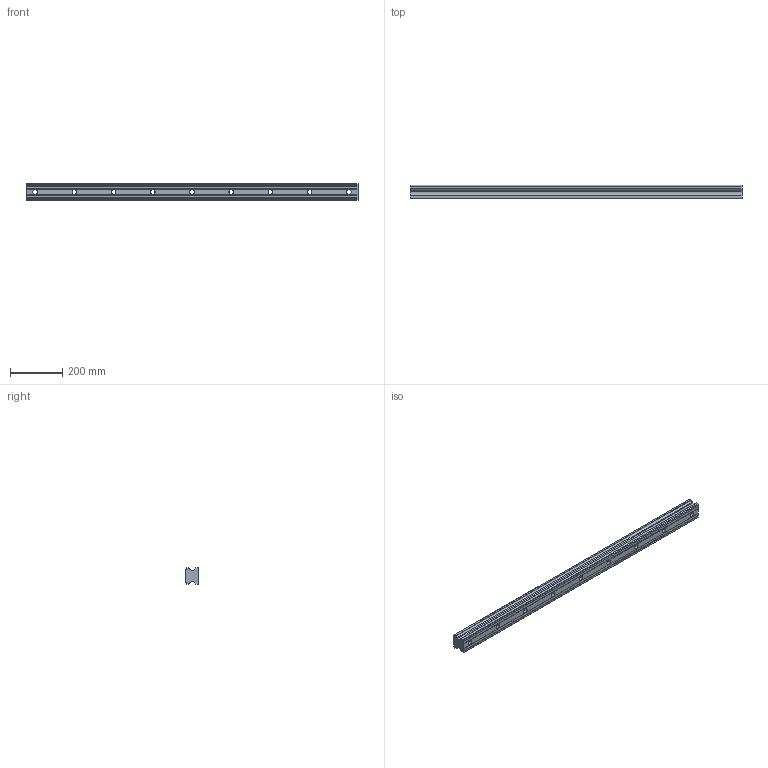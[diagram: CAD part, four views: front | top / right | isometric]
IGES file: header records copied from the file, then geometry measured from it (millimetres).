
Start section: Data from Parasolid IGES Translator 26.0.171, Copyright(c) 2006 Siemens PLM Software. All Rights Reserved.
Global section: file name: HSR65X-1270L(GK) RAIL(35).igs; native system: By Siemens PLM Incorporated; preprocessor: XPlus GENERIC/IGES 26.0.171; author: Noname; organization: Noname; date: 20240521.044623; units: millimetre
Bounding box: 1270 x 53 x 63 mm (x, y, z)
Surface area: 341690.9 mm2 (no closed solid volume)
Topology: 0 solids, 0 shells, 59 faces, 288 edges, 252 vertices
Faces by surface type: extrusion 37, revolution 22
